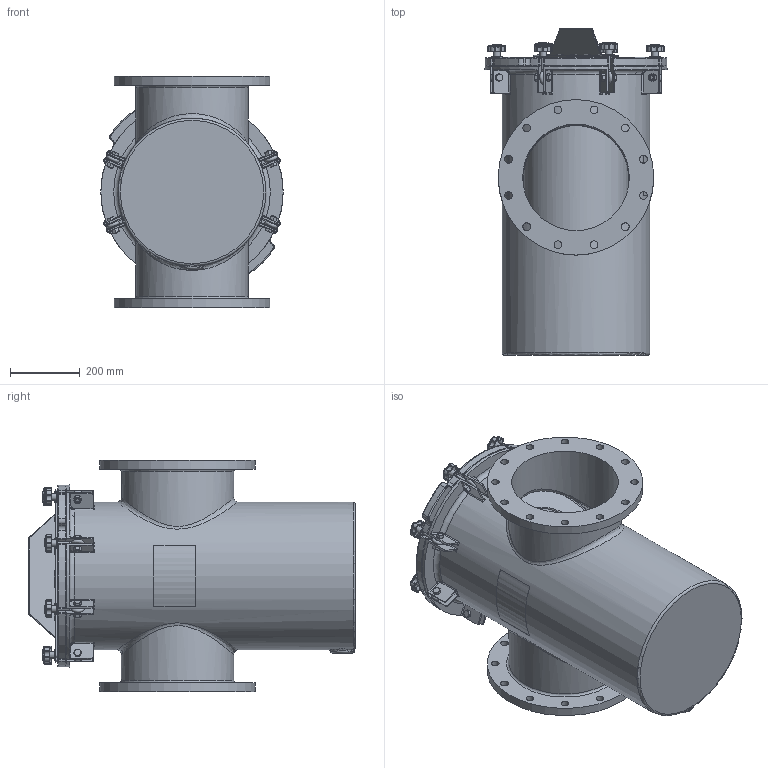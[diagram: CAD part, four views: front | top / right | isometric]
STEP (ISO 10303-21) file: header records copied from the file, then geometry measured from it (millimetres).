
FILE_DESCRIPTION(/* description */ ('STRAINER BODY'),/* implementation_level */ '2;1');
FILE_NAME(/* name */ '\\chntshnas1\IP_PUMPS\NeptuneBenson\Project Execution\WIP\Ready for delivery - Do not Disturb -Updated with metric Flange\Workspace\FG Straight Strainer\150NBFG12X12-MM.stp',/* time_stamp */ '2016-10-18T19:44:49+05:00',/* author */ ('20076253'),/* organization */ (''),/* preprocessor_version */ 'ST-DEVELOPER v16.1',/* originating_system */ 'Autodesk Inventor 2016',/* authorisation */ '');
FILE_SCHEMA (('AUTOMOTIVE_DESIGN { 1 0 10303 214 3 1 1 }'));
Length unit declared in the file: inch
Products named in the file (24): NBFGBODY12X12MM; 150NBCVR20R2; 150NBGSK16R1; Perforated Basket 16in; Bride (Ring) 16in; Baffle 16in; Handle 16in; Bottom Strainer 16in; NBBSK10T316; BRACESTRCVR16_Welds; BRACE (BASE) FOR 16 BODY; BRACE (PROJ) FOR 16 BODY; Bumper; BRACESTRCVR16; Nut- 1_2  UNC; Bolt-1_2 x 1 1_2  UNC; EyeBolt; Washer; Knob M10; Securing Assembly For FG  with Brace; Securing Assembly For FG without Brace; Label for 16.625 inch (Right); Label for 16.625 inch (Left); Guardian FG H&L Strainer (Metric)
Assembly tree (39 placements, depth 3):
  Guardian FG H&L Strainer (Metric)
    NBFGBODY12X12MM
    150NBCVR20R2
    150NBGSK16R1
    NBBSK10T316
      Perforated Basket 16in
      Bride (Ring) 16in
      Baffle 16in
      Handle 16in
      Bottom Strainer 16in
    BRACESTRCVR16
      BRACESTRCVR16_Welds
      BRACE (BASE) FOR 16 BODY
      BRACE (PROJ) FOR 16 BODY
      Bumper  x6
    Securing Assembly For FG  with Brace  x2
      Nut- 1_2  UNC
      Bolt-1_2 x 1 1_2  UNC
      EyeBolt
      Washer
      Knob M10
    Securing Assembly For FG without Brace  x6
      Nut- 1_2  UNC
      Bolt-1_2 x 1 1_2  UNC
      EyeBolt
      Washer
      Knob M10
    Label for 16.625 inch (Right)
    Label for 16.625 inch (Left)
Bounding box: 520.7 x 933.45 x 660.4 mm (x, y, z)
Volume: 23280787.8 mm3; surface area: 5710826.7 mm2
Topology: 66 solids, 66 shells, 1814 faces, 4132 edges, 2440 vertices
Faces by surface type: cylinder 665, plane 500, cone 184, torus 166, sphere 158, bspline 141
Full cylindrical faces by diameter (mm): 3.175 x11, 6.35 x1, 8.382 x8, 9.525 x16, 10.592 x8, 12.7 x8, 15.875 x16, 19 x16, 19.05 x8, 22.098 x24, 22.809 x1, 31.75 x8, 295.275 x2, 298.45 x1, 300.99 x1, 304.8 x2, 320.675 x2, 406.4 x2, 409.575 x1, 415.925 x1, 422.275 x1, 444.5 x2, 457.2 x1, 463.55 x1
Entity records: 34166 total; most frequent: CARTESIAN_POINT 11153, DIRECTION 4759, ORIENTED_EDGE 4336, EDGE_CURVE 2168, AXIS2_PLACEMENT_3D 1956, VERTEX_POINT 1359, EDGE_LOOP 1187, ADVANCED_FACE 964
